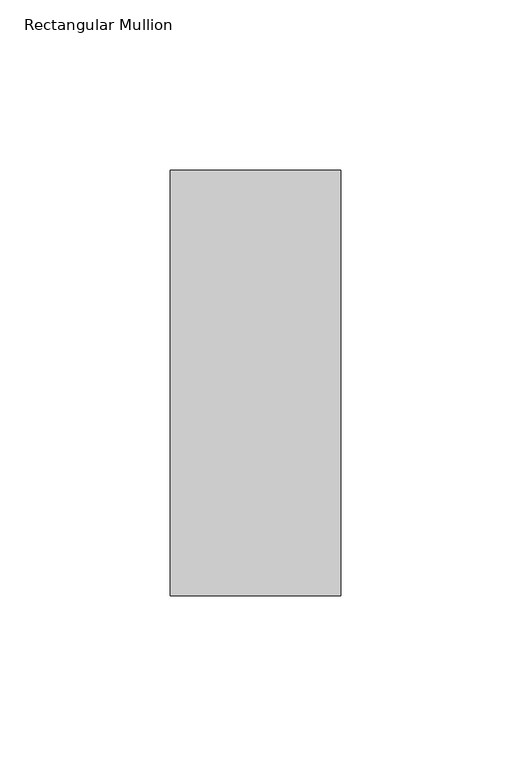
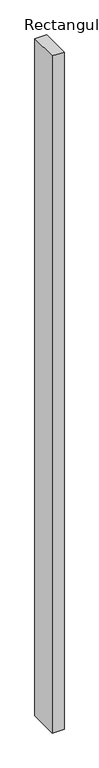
"""IFC4 building model written with IfcOpenShell, lengths in millimetres: member geometry, Rectangular Mullion : RSen_21_CWM_support profile - 50x125 - right_gen_duco projects."""

from ifc_helpers import new_model, si_unit, frame, origin, place, context, project, spatial, polyline, outline, extrude, source, transform, mapped, element, save


def rectangular_mullion_041a21c4(model_context):
    return source(origin(), model_context, "Body", "SweptSolid", [
        extrude(outline(polyline([(-100.0, -1.0), (-100.0, 124.0), (-50.0, 124.0), (-50.0, -1.0), (-100.0, -1.0)])), frame((0.0, 0.0, -3000.0), z_axis=(0.0, 0.0, 1.0), x_axis=(1.0, 0.0, 0.0)), (0.0, 0.0, 1.0), 3000.0),
    ])


if __name__ == "__main__":
    model = new_model("IFC4")
    model_context = context("Model", 3, world=origin())
    ifc_project = project(units=[si_unit("LENGTHUNIT", "METRE", prefix="MILLI")], contexts=[model_context])
    site = spatial("IfcSite", under=ifc_project)
    building = spatial("IfcBuilding", under=site)
    placement = place(None, origin())
    rectangular_mullion_shape = rectangular_mullion_041a21c4(model_context)
    element("IfcMember", 1, ObjectType="Rectangular Mullion : RSen_21_CWM_support profile - 50x125 - right_gen_duco projects", at=placement, inside=building, context=model_context, shape_type="MappedRepresentation", body=[
        mapped(rectangular_mullion_shape, transform((0.0, 0.0, 0.0), x_axis=(1.0, 0.0, 0.0), y_axis=(0.0, 1.0, 0.0), z_axis=(0.0, 0.0, 1.0))),
    ])
    save(model, "model.ifc")
